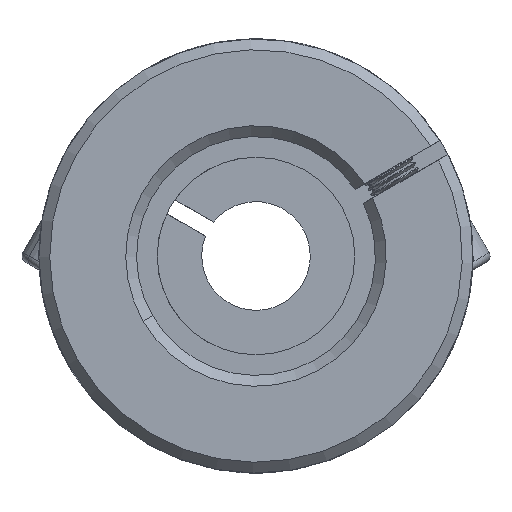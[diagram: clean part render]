
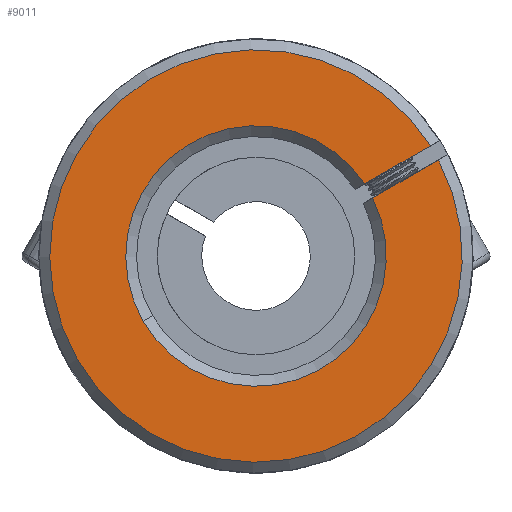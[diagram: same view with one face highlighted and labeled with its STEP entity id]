
A CAD part, front view. The second image highlights one B-rep face of the part: STEP entity #9011.
In plain terms, the highlighted planar face has unit normal (0, -1, 0).
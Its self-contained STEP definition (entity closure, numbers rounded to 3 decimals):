
#126 = VERTEX_POINT ( 'NONE', #8420 ) ;
#642 = CARTESIAN_POINT ( 'NONE',  ( -1.447, -31.239, 40. ) ) ;
#905 = EDGE_CURVE ( 'NONE', #12154, #4065, #11093, .T. ) ;
#1087 = FACE_OUTER_BOUND ( 'NONE', #8291, .T. ) ;
#1443 = CARTESIAN_POINT ( 'NONE',  ( 8.548, -31.239, 46.641 ) ) ;
#1918 = CARTESIAN_POINT ( 'NONE',  ( 52.98, -31.239, 45.743 ) ) ;
#1970 = ORIENTED_EDGE ( 'NONE', *, *, #6974, .F. ) ;
#2812 = VERTEX_POINT ( 'NONE', #1443 ) ;
#3397 = CARTESIAN_POINT ( 'NONE',  ( -1.447, -31.239, 40. ) ) ;
#3463 = EDGE_CURVE ( 'NONE', #5269, #126, #8665, .T. ) ;
#3699 = CARTESIAN_POINT ( 'NONE',  ( 9.298, -31.239, 45.342 ) ) ;
#4065 = VERTEX_POINT ( 'NONE', #7414 ) ;
#4326 = DIRECTION ( 'NONE',  ( 0., 1., 0. ) ) ;
#5185 = VECTOR ( 'NONE', #7576, 1000. ) ;
#5269 = VERTEX_POINT ( 'NONE', #6985 ) ;
#5905 = ORIENTED_EDGE ( 'NONE', *, *, #3463, .T. ) ;
#5907 = EDGE_CURVE ( 'NONE', #4065, #2812, #10595, .T. ) ;
#6049 = DIRECTION ( 'NONE',  ( 0.5, 0., -0.866 ) ) ;
#6323 = DIRECTION ( 'NONE',  ( 0., 1., 0. ) ) ;
#6357 = PLANE ( 'NONE',  #7498 ) ;
#6432 = CARTESIAN_POINT ( 'NONE',  ( 8.431, -31.239, 44.841 ) ) ;
#6503 = DIRECTION ( 'NONE',  ( 0.5, 0., -0.866 ) ) ;
#6726 = VECTOR ( 'NONE', #6765, 1000. ) ;
#6765 = DIRECTION ( 'NONE',  ( -0.866, 0., -0.5 ) ) ;
#6974 = EDGE_CURVE ( 'NONE', #12154, #126, #11583, .T. ) ;
#6985 = CARTESIAN_POINT ( 'NONE',  ( 14.616, -31.239, 50.147 ) ) ;
#7257 = DIRECTION ( 'NONE',  ( 0.5, 0., -0.866 ) ) ;
#7272 = DIRECTION ( 'NONE',  ( 0.5, 0., -0.866 ) ) ;
#7414 = CARTESIAN_POINT ( 'NONE',  ( -11.837, -31.239, 33.997 ) ) ;
#7498 = AXIS2_PLACEMENT_3D ( 'NONE', #1918, #10537, #7257 ) ;
#7576 = DIRECTION ( 'NONE',  ( 0.866, 0., 0.5 ) ) ;
#8195 = ORIENTED_EDGE ( 'NONE', *, *, #12008, .F. ) ;
#8291 = EDGE_LOOP ( 'NONE', ( #1970, #10935, #10441, #8195, #5905 ) ) ;
#8420 = CARTESIAN_POINT ( 'NONE',  ( 15.367, -31.239, 48.848 ) ) ;
#8486 = CARTESIAN_POINT ( 'NONE',  ( -1.447, -31.239, 40. ) ) ;
#8488 = AXIS2_PLACEMENT_3D ( 'NONE', #8486, #6323, #7272 ) ;
#8665 = CIRCLE ( 'NONE', #9235, 19. ) ;
#8750 = LINE ( 'NONE', #10891, #6726 ) ;
#9011 = ADVANCED_FACE ( 'NONE', ( #1087 ), #6357, .F. ) ;
#9235 = AXIS2_PLACEMENT_3D ( 'NONE', #642, #9281, #6049 ) ;
#9281 = DIRECTION ( 'NONE',  ( 0., -1., 0. ) ) ;
#10441 = ORIENTED_EDGE ( 'NONE', *, *, #5907, .T. ) ;
#10537 = DIRECTION ( 'NONE',  ( 0., 1., 0. ) ) ;
#10595 = CIRCLE ( 'NONE', #11246, 12. ) ;
#10891 = CARTESIAN_POINT ( 'NONE',  ( 7.68, -31.239, 46.14 ) ) ;
#10935 = ORIENTED_EDGE ( 'NONE', *, *, #905, .T. ) ;
#11093 = CIRCLE ( 'NONE', #8488, 12. ) ;
#11246 = AXIS2_PLACEMENT_3D ( 'NONE', #3397, #4326, #6503 ) ;
#11583 = LINE ( 'NONE', #6432, #5185 ) ;
#12008 = EDGE_CURVE ( 'NONE', #5269, #2812, #8750, .T. ) ;
#12154 = VERTEX_POINT ( 'NONE', #3699 ) ;
